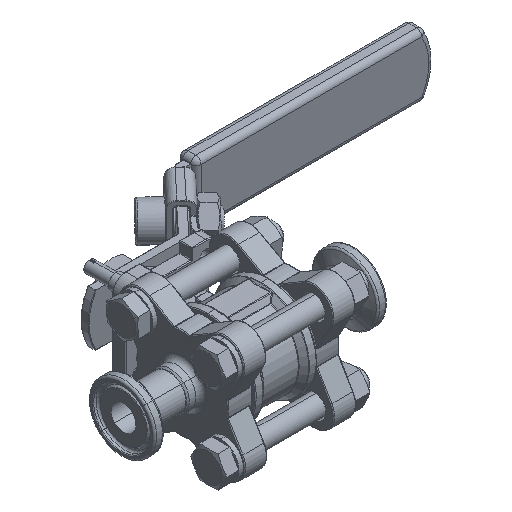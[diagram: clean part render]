
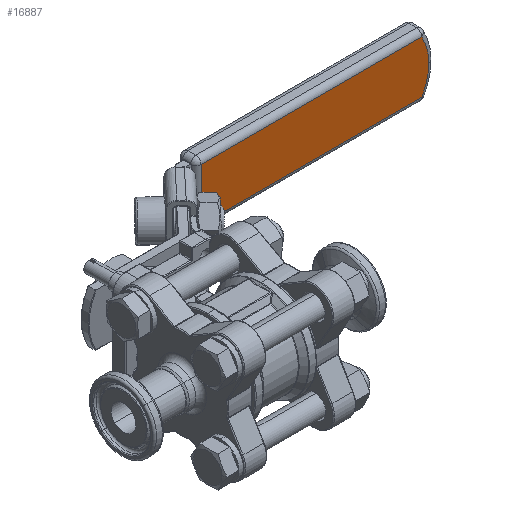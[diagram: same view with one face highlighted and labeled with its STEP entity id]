
A CAD part, isometric view. The second image highlights one B-rep face of the part: STEP entity #16887.
In plain terms, the highlighted planar face has unit normal (0, -1, 0) as drawn and (0, 0, 1) by its records, which use the part's own axes.
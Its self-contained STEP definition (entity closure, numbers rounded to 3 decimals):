
#1 = VERTEX_POINT ( 'NONE', #19163 ) ;
#767 = DIRECTION ( 'NONE',  ( 1., 0., 0. ) ) ;
#1772 = FACE_OUTER_BOUND ( 'NONE', #19249, .T. ) ;
#2206 = DIRECTION ( 'NONE',  ( 1., 0., 0. ) ) ;
#4071 = CARTESIAN_POINT ( 'NONE',  ( 0., -10., 3.5 ) ) ;
#4185 = VERTEX_POINT ( 'NONE', #19481 ) ;
#5268 = ORIENTED_EDGE ( 'NONE', *, *, #22851, .T. ) ;
#5293 = CARTESIAN_POINT ( 'NONE',  ( 2., -10., 3.5 ) ) ;
#7858 = DIRECTION ( 'NONE',  ( 0., 0., 1. ) ) ;
#7884 = ORIENTED_EDGE ( 'NONE', *, *, #26894, .T. ) ;
#8162 = LINE ( 'NONE', #26376, #13136 ) ;
#8529 = AXIS2_PLACEMENT_3D ( 'NONE', #17910, #22067, #767 ) ;
#8607 = DIRECTION ( 'NONE',  ( -1., 0., 0. ) ) ;
#9581 = LINE ( 'NONE', #14842, #20529 ) ;
#11286 = VECTOR ( 'NONE', #2206, 1000. ) ;
#12096 = EDGE_CURVE ( 'NONE', #26490, #21444, #15158, .T. ) ;
#13136 = VECTOR ( 'NONE', #8607, 1000. ) ;
#13346 = EDGE_CURVE ( 'NONE', #4185, #1, #8162, .T. ) ;
#14004 = CARTESIAN_POINT ( 'NONE',  ( 69., 0., 3.5 ) ) ;
#14167 = CARTESIAN_POINT ( 'NONE',  ( 0., 0., 3.5 ) ) ;
#14842 = CARTESIAN_POINT ( 'NONE',  ( 2., 0., 3.5 ) ) ;
#15158 = CIRCLE ( 'NONE', #8529, 20. ) ;
#16887 = ADVANCED_FACE ( 'NONE', ( #1772 ), #24738, .T. ) ;
#16930 = LINE ( 'NONE', #4071, #11286 ) ;
#17368 = ORIENTED_EDGE ( 'NONE', *, *, #12096, .T. ) ;
#17910 = CARTESIAN_POINT ( 'NONE',  ( 69., 0., 3.5 ) ) ;
#17983 = ORIENTED_EDGE ( 'NONE', *, *, #21713, .T. ) ;
#18252 = CARTESIAN_POINT ( 'NONE',  ( 86.321, -10., 3.5 ) ) ;
#18446 = DIRECTION ( 'NONE',  ( 1., 0., 0. ) ) ;
#19163 = CARTESIAN_POINT ( 'NONE',  ( 2., 10., 3.5 ) ) ;
#19249 = EDGE_LOOP ( 'NONE', ( #22734, #5268, #17983, #17368, #7884 ) ) ;
#19481 = CARTESIAN_POINT ( 'NONE',  ( 86.321, 10., 3.5 ) ) ;
#20034 = CARTESIAN_POINT ( 'NONE',  ( 89., 0., 3.5 ) ) ;
#20489 = DIRECTION ( 'NONE',  ( 0., 0., 1. ) ) ;
#20529 = VECTOR ( 'NONE', #21325, 1000. ) ;
#21325 = DIRECTION ( 'NONE',  ( 0., -1., 0. ) ) ;
#21444 = VERTEX_POINT ( 'NONE', #20034 ) ;
#21713 = EDGE_CURVE ( 'NONE', #25896, #26490, #16930, .T. ) ;
#22019 = AXIS2_PLACEMENT_3D ( 'NONE', #14167, #7858, #26947 ) ;
#22067 = DIRECTION ( 'NONE',  ( 0., 0., 1. ) ) ;
#22734 = ORIENTED_EDGE ( 'NONE', *, *, #13346, .T. ) ;
#22851 = EDGE_CURVE ( 'NONE', #1, #25896, #9581, .T. ) ;
#23819 = AXIS2_PLACEMENT_3D ( 'NONE', #14004, #20489, #18446 ) ;
#24738 = PLANE ( 'NONE',  #22019 ) ;
#25896 = VERTEX_POINT ( 'NONE', #5293 ) ;
#26376 = CARTESIAN_POINT ( 'NONE',  ( 0., 10., 3.5 ) ) ;
#26490 = VERTEX_POINT ( 'NONE', #18252 ) ;
#26894 = EDGE_CURVE ( 'NONE', #21444, #4185, #27043, .T. ) ;
#26947 = DIRECTION ( 'NONE',  ( 1., 0., 0. ) ) ;
#27043 = CIRCLE ( 'NONE', #23819, 20. ) ;
